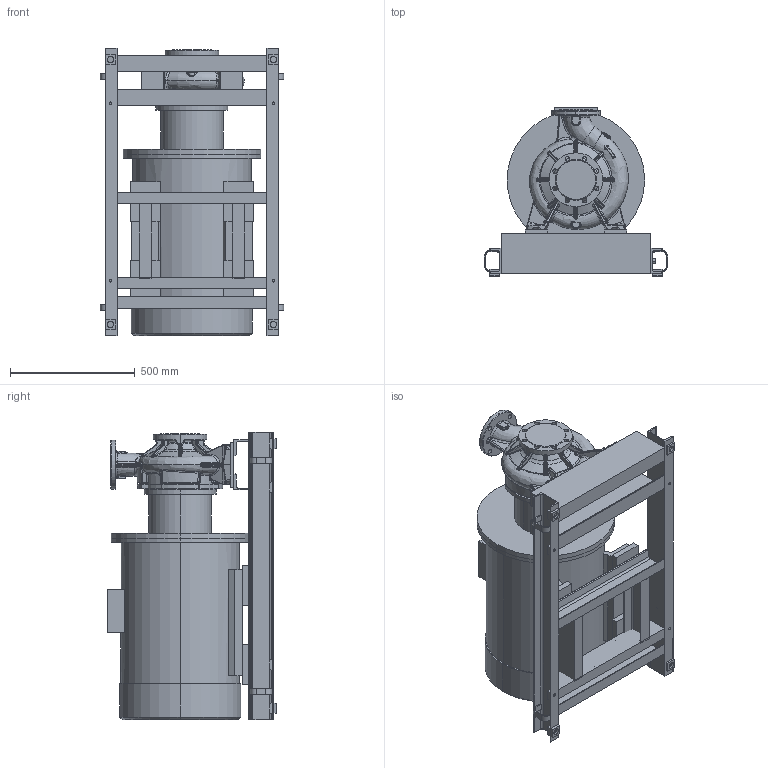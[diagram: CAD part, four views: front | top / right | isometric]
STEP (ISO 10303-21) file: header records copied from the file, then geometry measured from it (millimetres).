
FILE_DESCRIPTION (( 'STEP AP203' ), '1' );
FILE_NAME ('KRM 100-80-250-2-55.STEP', '2026-09-22T08:00:31', ( '' ), ( '' ), 'SwSTEP 2.0', 'SolidWorks 2016', '' );
FILE_SCHEMA (( 'CONFIG_CONTROL_DESIGN' ));
Length unit declared in the file: millimetre
Products named in the file (1): KRM 100-80-250-2-55
Bounding box: 733.08 x 675 x 1150 mm (x, y, z)
Volume: 178137602.5 mm3; surface area: 6264500.6 mm2
Topology: 40 solids, 40 shells, 1552 faces, 3769 edges, 2269 vertices
Faces by surface type: bspline 489, plane 440, cylinder 405, torus 112, cone 67, sphere 39
Entity records: 85525 total; most frequent: CARTESIAN_POINT 52996, ORIENTED_EDGE 7458, DIRECTION 5894, EDGE_CURVE 3729, AXIS2_PLACEMENT_3D 2313, VERTEX_POINT 2269, EDGE_LOOP 1646, FACE_OUTER_BOUND 1552
